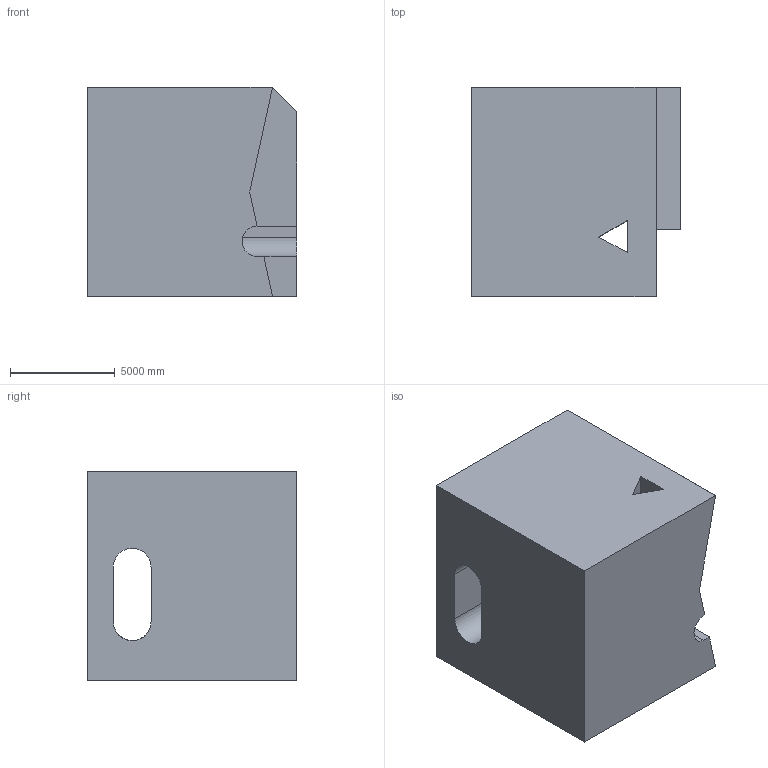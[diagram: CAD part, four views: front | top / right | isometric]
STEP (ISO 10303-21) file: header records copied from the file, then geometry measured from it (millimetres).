
FILE_DESCRIPTION (( 'STEP AP203' ), '1' );
FILE_NAME ('317.STEP', '2022-09-07T12:49:37', ( 'user' ), ( '' ), 'SwSTEP 2.0', 'SolidWorks 2021', '' );
FILE_SCHEMA (( 'CONFIG_CONTROL_DESIGN' ));
Length unit declared in the file: centimetre
Products named in the file (1): 317
Bounding box: 10000 x 10000 x 10000 mm (x, y, z)
Volume: 832942426592.1 mm3; surface area: 754290046.1 mm2
Topology: 1 solids, 1 shells, 31 faces, 92 edges, 61 vertices
Faces by surface type: plane 26, cylinder 5
Entity records: 1204 total; most frequent: CARTESIAN_POINT 281, ORIENTED_EDGE 184, DIRECTION 163, EDGE_CURVE 92, VECTOR 77, LINE 77, VERTEX_POINT 61, AXIS2_PLACEMENT_3D 43
